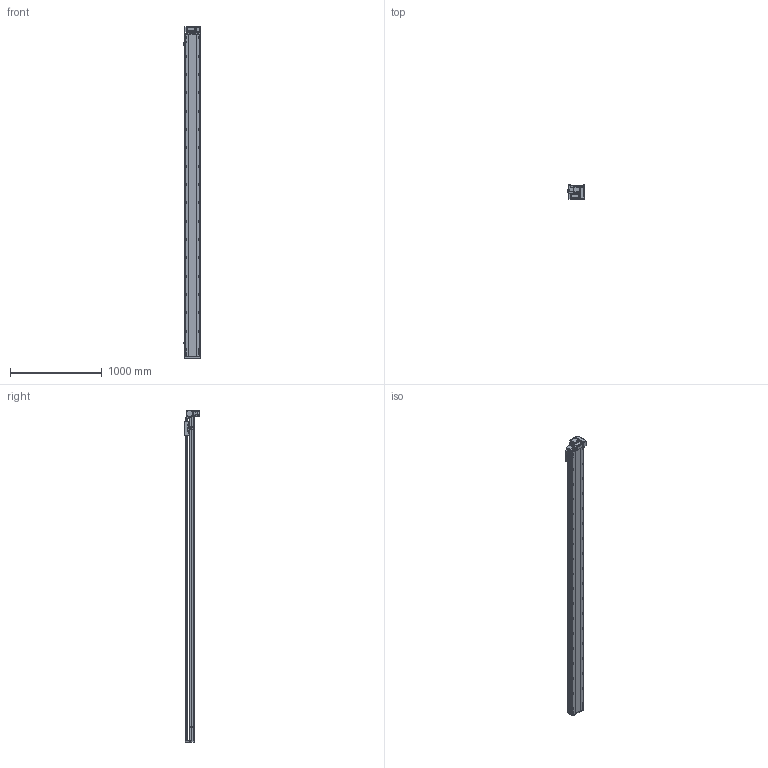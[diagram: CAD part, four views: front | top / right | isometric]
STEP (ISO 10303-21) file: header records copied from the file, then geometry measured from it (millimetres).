
FILE_DESCRIPTION (( 'STEP AP214' ), '1' );
FILE_NAME ('RTB17S-XX-3250-RM-M40-C4.STEP', '2025-12-11T08:37:12', ( '' ), ( '' ), 'SwSTEP 2.0', 'SolidWorks 2018', '' );
FILE_SCHEMA (( 'AUTOMOTIVE_DESIGN' ));
Length unit declared in the file: millimetre
Products named in the file (14): RTB14-L-017P^RTB17S-RM-々湍釱蚾饜-400W_RTB17S-XX-XX-RM-M40-C4; RTB17S-L-001耜醱啣^RTB17S-XX-XX-RM-M40-C4; RTH13-BL-012覜茼え俋离^RTB17S-XX-XX-RM-M40-C4; RTB17S-L-004佪裝蹟譫蟀諉釱^RTB17S-XX-XX-RM-M40-C4; OMRON EE-SX672 传感器^RTB17S-XX-XX-RM-M40-C4; RTB14-L-018P^RTB17S-RM-々湍釱蚾饜-400W_RTB17S-XX-XX-RM-M40-C4; RTB17S-L-014-T20--々湍釱^RTB17S-RM-々湍釱蚾饜-400W_RTB17S-XX-XX-RM-M40-C4; RTB17S-RM-々湍釱蚾饜-400W^RTB17S-XX-XX-RM-M40-C4; RTB14-L-005P--轴承塑胶压盖^RTB17S-RM-皮带座装配-400W_RTB17S-XX-XX-RM-M40-C4; RTB17S-XX-3250-RM-M40-C4; RTB17-R-011菁釱^RTB17S-XX-XX-RM-M40-C4; RTB17S-L-007奻裔^RTB17S-XX-XX-RM-M40-C4; RTB14-L-008-M20--萇儂啣^RTB17S-RM-々湍釱蚾饜-400W_RTB17S-XX-XX-RM-M40-C4; 400W侜督萇儂^RTB17S-XX-XX-RM-M40-C4
Assembly tree (16 placements, depth 3):
  RTB17S-XX-3250-RM-M40-C4
    RTB17-R-011菁釱^RTB17S-XX-XX-RM-M40-C4
    RTB17S-L-007奻裔^RTB17S-XX-XX-RM-M40-C4
    OMRON EE-SX672 传感器^RTB17S-XX-XX-RM-M40-C4  x3
    RTB17S-L-001耜醱啣^RTB17S-XX-XX-RM-M40-C4
    400W侜督萇儂^RTB17S-XX-XX-RM-M40-C4
    RTB17S-L-004佪裝蹟譫蟀諉釱^RTB17S-XX-XX-RM-M40-C4
    RTH13-BL-012覜茼え俋离^RTB17S-XX-XX-RM-M40-C4
    RTB17S-RM-々湍釱蚾饜-400W^RTB17S-XX-XX-RM-M40-C4
      RTB17S-L-014-T20--々湍釱^RTB17S-RM-々湍釱蚾饜-400W_RTB17S-XX-XX-RM-M40-C4
      RTB14-L-005P--轴承塑胶压盖^RTB17S-RM-皮带座装配-400W_RTB17S-XX-XX-RM-M40-C4
      RTB14-L-008-M20--萇儂啣^RTB17S-RM-々湍釱蚾饜-400W_RTB17S-XX-XX-RM-M40-C4
      RTB14-L-017P^RTB17S-RM-々湍釱蚾饜-400W_RTB17S-XX-XX-RM-M40-C4  x2
      RTB14-L-018P^RTB17S-RM-々湍釱蚾饜-400W_RTB17S-XX-XX-RM-M40-C4
Bounding box: 183.5 x 156.5 x 3622.5 mm (x, y, z)
Volume: 30717658.7 mm3; surface area: 3500769.1 mm2
Topology: 15 solids, 15 shells, 2397 faces, 6735 edges, 4401 vertices
Faces by surface type: plane 1092, cylinder 857, bspline 301, cone 139, torus 8
Entity records: 71849 total; most frequent: CARTESIAN_POINT 20540, ORIENTED_EDGE 10314, DIRECTION 9476, EDGE_CURVE 5157, VERTEX_POINT 3389, AXIS2_PLACEMENT_3D 3319, LINE 2838, VECTOR 2838
